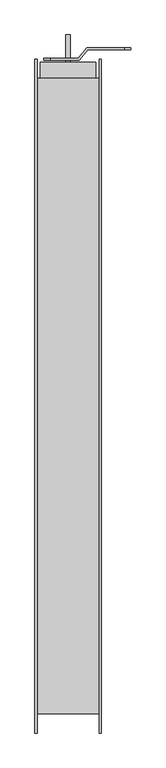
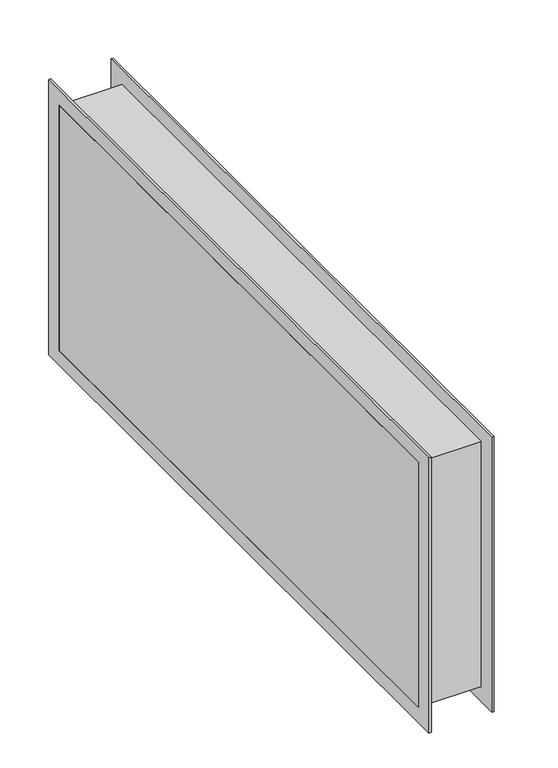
"""IFC4 building model written with IfcOpenShell, lengths in millimetres: damper geometry, ADSK_Арктос_Дроссель-клапан прямоугольный АВК : АВК 1200х500."""

from ifc_helpers import new_model, si_unit, frame, origin, place, context, project, spatial, polyline, circle_curve, outline, extrude, source, transform, mapped, element, save
from ifc_brep_helpers import plane_surface, cylinder_surface, advanced_brep


def damper_40741b24(model_context):
    return source(origin(), model_context, "Body", "SolidModel", [
        advanced_brep(
        [(106.0, 654.0, -175.0), (36.9754652, 654.0, -175.0), (36.9754652, 654.0, -200.0), (106.0, 654.0, -200.0), (21.3497526, 634.0, -200.0), (-33.0, 634.0, -200.0), (-33.0, 638.0, -200.0), (19.3988223, 638.0, -200.0), (35.0245348, 658.0, -200.0), (106.0, 658.0, -200.0), (35.0245348, 658.0, -175.0), (106.0, 658.0, -175.0), (19.3988223, 638.0, -175.0), (-33.0, 638.0, -175.0), (-33.0, 634.0, -175.0), (21.3497526, 634.0, -175.0)],
        [
            (0, 1),
            (1, 2),
            (2, 3),
            (3, 0, circle_curve(frame((106.0, 654.0, -187.5), z_axis=(0.0, -1.0, 0.0), x_axis=(0.0, 0.0, -1.0)), 12.5)),
            (2, 4),
            (4, 5),
            (5, 6),
            (6, 7),
            (7, 8),
            (8, 9),
            (9, 3),
            (8, 10),
            (10, 11),
            (11, 9, circle_curve(frame((106.0, 658.0, -187.5), z_axis=(0.0, 1.0, 0.0), x_axis=(0.0, 0.0, -1.0)), 12.5)),
            (0, 11),
            (10, 12),
            (12, 13),
            (13, 14),
            (14, 15),
            (15, 1),
            (15, 4),
            (7, 12),
            (14, 5, circle_curve(frame((-33.0, 634.0, -187.5), z_axis=(0.0, -1.0, 0.0), x_axis=(0.0, 0.0, -1.0)), 12.5)),
            (6, 13, circle_curve(frame((-33.0, 638.0, -187.5), z_axis=(0.0, 1.0, 0.0), x_axis=(0.0, 0.0, -1.0)), 12.5)),
        ],
        [
            plane_surface(frame((106.0, 654.0, -175.0), z_axis=(0.0, -1.0, 0.0), x_axis=(-1.0, 0.0, 0.0))),
            plane_surface(frame((106.0, 654.0, -200.0), z_axis=(0.0, 0.0, -1.0), x_axis=(-1.0, 0.0, 0.0))),
            plane_surface(frame((106.0, 658.0, -200.0), z_axis=(0.0, 1.0, 0.0), x_axis=(-1.0, 0.0, 0.0))),
            plane_surface(frame((106.0, 658.0, -175.0), z_axis=(0.0, 0.0, 1.0), x_axis=(-1.0, 0.0, 0.0))),
            plane_surface(frame((36.9754652, 654.0, -175.0), z_axis=(0.7880107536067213, -0.6156614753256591, 0.0), x_axis=(-0.6156614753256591, -0.7880107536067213, 0.0))),
            plane_surface(frame((35.0245348, 658.0, -200.0), z_axis=(-0.7880107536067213, 0.6156614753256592, 0.0), x_axis=(-0.6156614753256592, -0.7880107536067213, 0.0))),
            plane_surface(frame((21.3497526, 634.0, -175.0), z_axis=(0.0, -1.0, 0.0), x_axis=(-1.0, 0.0, 0.0))),
            plane_surface(frame((19.3988223, 638.0, -200.0), z_axis=(0.0, 1.0, 0.0), x_axis=(-1.0, 0.0, 0.0))),
            cylinder_surface(frame((-33.0, 616.549934, -187.5), z_axis=(0.0, 1.0, 0.0), x_axis=(0.0, 0.0, -1.0)), 12.5),
            cylinder_surface(frame((106.0, 665.9765102, -187.5), z_axis=(0.0, 1.0, 0.0), x_axis=(0.0, 0.0, -1.0)), 12.5),
        ],
        [
            (0, [[1, 2, 3, 4]]),
            (1, [[-3, 5, 6, 7, 8, 9, 10, 11]]),
            (2, [[-10, 12, 13, 14]]),
            (3, [[-1, 15, -13, 16, 17, 18, 19, 20]]),
            (4, [[-2, -20, 21, -5]]),
            (5, [[-9, 22, -16, -12]]),
            (6, [[-6, -21, -19, 23]]),
            (7, [[-8, 24, -17, -22]]),
            (8, [[-23, -18, -24, -7]]),
            (9, [[-4, -11, -14, -15]]),
        ],
    ),
        extrude(outline(polyline([(-4.0, 682.0), (3.9317836, 682.0), (3.9317836, 622.0), (-4.0, 622.0), (-4.0, 682.0)])), frame((0.0, 0.0, -191.5), z_axis=(0.0, 0.0, 1.0), x_axis=(1.0, 0.0, 0.0)), (0.0, 0.0, 1.0), 8.0),
        extrude(outline(polyline([(62.5, 600.0), (62.5, -600.0), (-62.5, -600.0), (-62.5, 600.0), (62.5, 600.0)])), frame((0.0, 0.0, -250.0), z_axis=(0.0, 0.0, 1.0), x_axis=(1.0, 0.0, 0.0)), (0.0, 0.0, 1.0), 500.0),
        extrude(outline(polyline([(636.0, 280.5), (636.0, -280.5), (-636.0, -280.5), (-636.0, 280.5), (636.0, 280.5)]), holes=[polyline([(600.0, 250.0), (-600.0, 250.0), (-600.0, -250.0), (600.0, -250.0), (600.0, 250.0)])]), frame((58.5, 0.0, 0.0), z_axis=(1.0, 0.0, 0.0), x_axis=(0.0, 1.0, 0.0)), (0.0, 0.0, 1.0), 4.0),
        extrude(outline(polyline([(-636.0, 280.5), (636.0, 280.5), (636.0, -280.5), (-636.0, -280.5), (-636.0, 280.5)]), holes=[polyline([(-600.0, 250.0), (-600.0, -250.0), (600.0, -250.0), (600.0, 250.0), (-600.0, 250.0)])]), frame((-62.5, 0.0, 0.0), z_axis=(1.0, 0.0, 0.0), x_axis=(0.0, 1.0, 0.0)), (0.0, 0.0, 1.0), 4.0),
        extrude(outline(polyline([(-52.5, 630.0), (52.5, 630.0), (52.5, 590.0), (-52.5, 590.0), (-52.5, 630.0)])), frame((0.0, 0.0, -225.0), z_axis=(0.0, 0.0, 1.0), x_axis=(1.0, 0.0, 0.0)), (0.0, 0.0, 1.0), 250.0),
    ])


if __name__ == "__main__":
    model = new_model("IFC4")
    model_context = context("Model", 3, world=origin())
    ifc_project = project(units=[si_unit("LENGTHUNIT", "METRE", prefix="MILLI")], contexts=[model_context])
    site = spatial("IfcSite", under=ifc_project)
    building = spatial("IfcBuilding", under=site)
    placement = place(None, origin())
    damper_shape = damper_40741b24(model_context)
    element("IfcDamper", 1, ObjectType="ADSK_Арктос_Дроссель-клапан прямоугольный АВК : АВК 1200х500", at=placement, inside=building, context=model_context, shape_type="MappedRepresentation", body=[
        mapped(damper_shape, transform((0.0, 0.0, 0.0), x_axis=(1.0, 0.0, 0.0), y_axis=(0.0, 1.0, 0.0), z_axis=(0.0, 0.0, 1.0))),
    ])
    save(model, "model.ifc")
